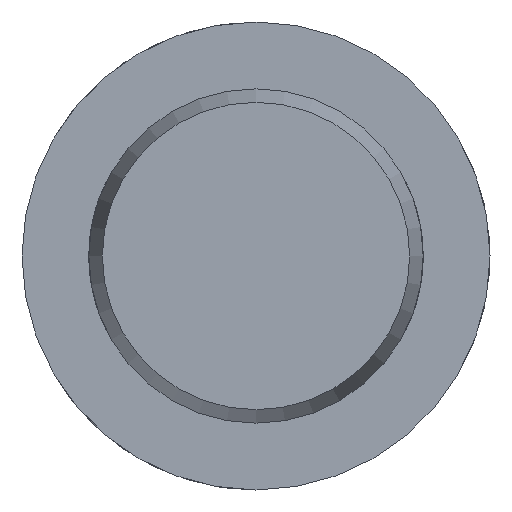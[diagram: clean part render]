
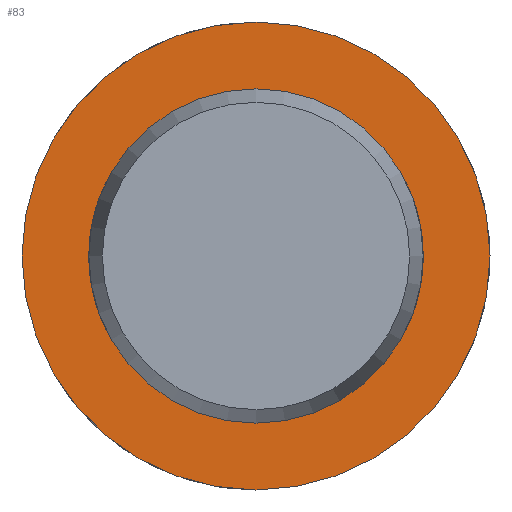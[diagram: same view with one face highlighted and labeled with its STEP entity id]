
A CAD part, left-side view. The second image highlights one B-rep face of the part: STEP entity #83.
In plain terms, the highlighted planar face has unit normal (-1, 0, 0).
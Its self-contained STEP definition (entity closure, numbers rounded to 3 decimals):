
#83 = ADVANCED_FACE( '', ( #128, #129 ), #130, .F. );
#128 = FACE_OUTER_BOUND( '', #204, .T. );
#129 = FACE_BOUND( '', #205, .T. );
#130 = PLANE( '', #206 );
#204 = EDGE_LOOP( '', ( #318 ) );
#205 = EDGE_LOOP( '', ( #319 ) );
#206 = AXIS2_PLACEMENT_3D( '', #320, #321, #322 );
#318 = ORIENTED_EDGE( '', *, *, #481, .F. );
#319 = ORIENTED_EDGE( '', *, *, #471, .T. );
#320 = CARTESIAN_POINT( '', ( 49.6, 5., 0. ) );
#321 = DIRECTION( '', ( 1., 0., 0. ) );
#322 = DIRECTION( '', ( 0., 0., -1. ) );
#471 = EDGE_CURVE( '', #541, #541, #542, .T. );
#481 = EDGE_CURVE( '', #559, #559, #560, .T. );
#541 = VERTEX_POINT( '', #726 );
#542 = CIRCLE( '', #727, 5. );
#559 = VERTEX_POINT( '', #881 );
#560 = CIRCLE( '', #882, 7. );
#726 = CARTESIAN_POINT( '', ( 49.6, 0., -5. ) );
#727 = AXIS2_PLACEMENT_3D( '', #943, #944, #945 );
#881 = CARTESIAN_POINT( '', ( 49.6, 0., -7. ) );
#882 = AXIS2_PLACEMENT_3D( '', #964, #965, #966 );
#943 = CARTESIAN_POINT( '', ( 49.6, 0., 0. ) );
#944 = DIRECTION( '', ( 1., 0., 0. ) );
#945 = DIRECTION( '', ( 0., 0., -1. ) );
#964 = CARTESIAN_POINT( '', ( 49.6, 0., 0. ) );
#965 = DIRECTION( '', ( 1., 0., 0. ) );
#966 = DIRECTION( '', ( 0., 0., -1. ) );
